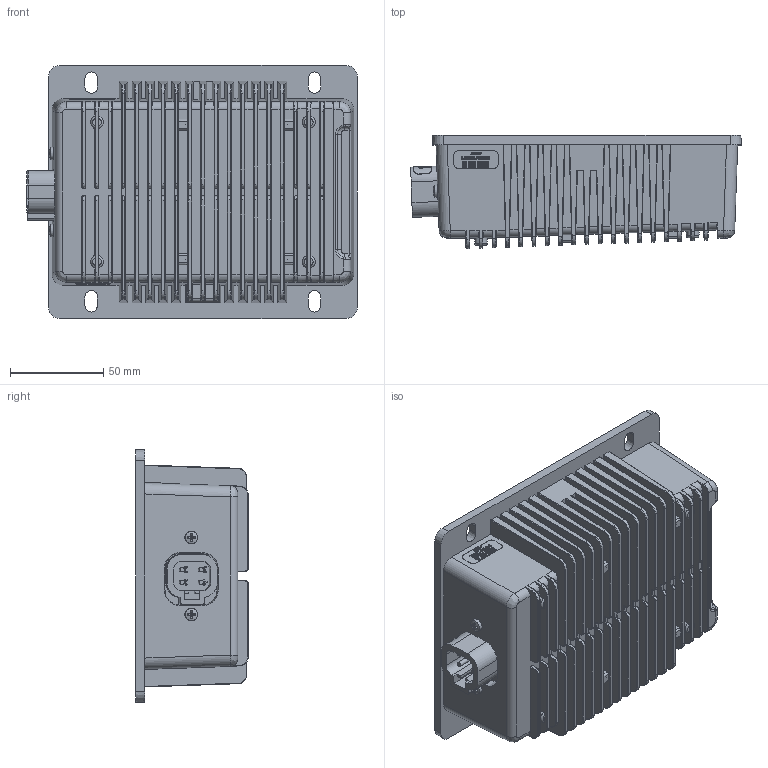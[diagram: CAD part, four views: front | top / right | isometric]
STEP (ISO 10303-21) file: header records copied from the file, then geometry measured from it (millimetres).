
FILE_DESCRIPTION(/* description */ (''),/* implementation_level */ '2;1');
FILE_NAME(/* name */ 'S:\Projects\PS-48-24-13A-NI, AX081800, Proj_13006\UNIT ASSEMBLY\RELEASED\rev B\AX081801.stp',/* time_stamp */ '2018-01-16T15:14:07-05:00',/* author */ ('tfisher'),/* organization */ (''),/* preprocessor_version */ 'ST-DEVELOPER v15.2',/* originating_system */ 'Autodesk Inventor 2014',/* authorisation */ '');
FILE_SCHEMA (('AUTOMOTIVE_DESIGN { 1 0 10303 214 3 1 1 }'));
Products named in the file (1): FG-AX081801 for STEP_Shrinkwrap_1
Bounding box: 177.69 x 60.58 x 136 mm (x, y, z)
Volume: 370443.9 mm3; surface area: 175994.1 mm2
Topology: 1 solids, 17 shells, 4641 faces, 12070 edges, 7789 vertices
Faces by surface type: plane 2273, bspline 1332, cylinder 858, cone 118, torus 56, sphere 4
Full cylindrical faces by diameter (mm): 2.388 x16, 2.794 x4, 3.099 x2, 3.251 x4, 3.505 x2, 4.14 x6, 5 x6, 6.502 x2, 6.731 x2, 8.306 x2, 8.9 x6
Entity records: 167939 total; most frequent: CARTESIAN_POINT 57163, ORIENTED_EDGE 23772, DIRECTION 18586, EDGE_CURVE 11886, VERTEX_POINT 7723, LINE 7314, VECTOR 7314, AXIS2_PLACEMENT_3D 5636
